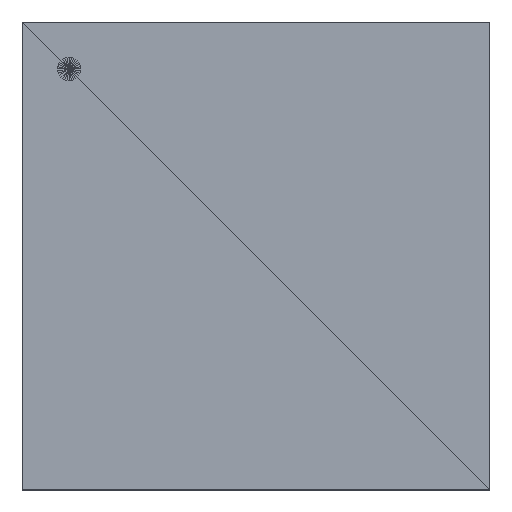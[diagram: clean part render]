
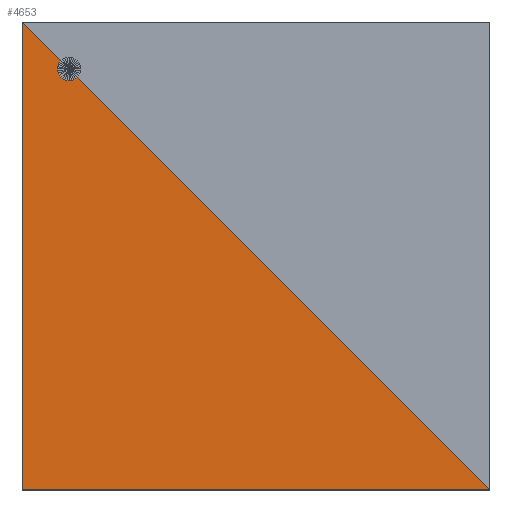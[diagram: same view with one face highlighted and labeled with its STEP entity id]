
A CAD part, top view. The second image highlights one B-rep face of the part: STEP entity #4653.
In plain terms, the highlighted planar face has unit normal (0, 0, 1).
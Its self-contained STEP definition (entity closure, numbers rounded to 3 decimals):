
#4653=ADVANCED_FACE('',(#4654),#4680,.F.);
#4654=FACE_OUTER_BOUND('',#4655,.T.);
#4655=EDGE_LOOP('',(#4656,#4658,#4660));
#4656=ORIENTED_EDGE('',*,*,#4657,.T.);
#4657=EDGE_CURVE('',#4662,#4664,#4666,.T.);
#4658=ORIENTED_EDGE('',*,*,#4659,.T.);
#4659=EDGE_CURVE('',#4664,#4670,#4672,.T.);
#4660=ORIENTED_EDGE('',*,*,#4661,.T.);
#4661=EDGE_CURVE('',#4670,#4662,#4676,.T.);
#4662=VERTEX_POINT('',#4663);
#4663=CARTESIAN_POINT('',(0.737,-0.737,1.27));
#4664=VERTEX_POINT('',#4665);
#4665=CARTESIAN_POINT('',(-0.737,-0.737,1.27));
#4666=LINE('',#4667,#4668);
#4667=CARTESIAN_POINT('',(0.737,-0.737,1.27));
#4668=VECTOR('',#4669,1.0);
#4669=DIRECTION('',(1.0,0.0,0.0));
#4670=VERTEX_POINT('',#4671);
#4671=CARTESIAN_POINT('',(-0.737,0.737,1.27));
#4672=LINE('',#4673,#4674);
#4673=CARTESIAN_POINT('',(-0.737,-0.737,1.27));
#4674=VECTOR('',#4675,1.0);
#4675=DIRECTION('',(0.0,-1.0,0.0));
#4676=LINE('',#4677,#4678);
#4677=CARTESIAN_POINT('',(-0.737,0.737,1.27));
#4678=VECTOR('',#4679,1.0);
#4679=DIRECTION('',(-0.707,0.707,0.0));
#4680=PLANE('',#4681);
#4681=AXIS2_PLACEMENT_3D('',#4682,#4683,#4684);
#4682=CARTESIAN_POINT('',(-0.737,-0.737,1.27));
#4683=DIRECTION('',(0.0,0.0,-1.0));
#4684=DIRECTION('',(0.707,-0.707,0.0));
